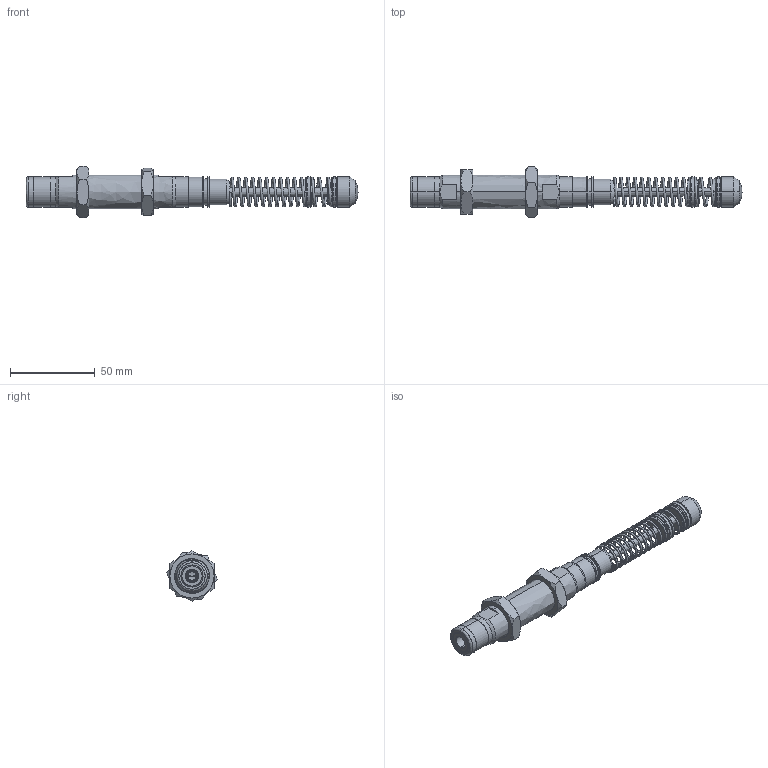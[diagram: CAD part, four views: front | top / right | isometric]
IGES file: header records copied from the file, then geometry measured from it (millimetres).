
Start section: SolidWorks IGES file using analytic representation for surfaces
Global section: file name: D:\IGS跡宒\AC2050D-13SK.IGS,1; native system: 5HSolidWorks 2013; preprocessor: SolidWorks 2013; author: Administrator; date: 160920.093636; units: inch
Bounding box: 195.3 x 29.78 x 30.02 mm (x, y, z)
Surface area: 17518.5 mm2 (no closed solid volume)
Topology: 0 solids, 0 shells, 170 faces, 2772 edges, 2771 vertices
Faces by surface type: revolution 112, bspline 58
